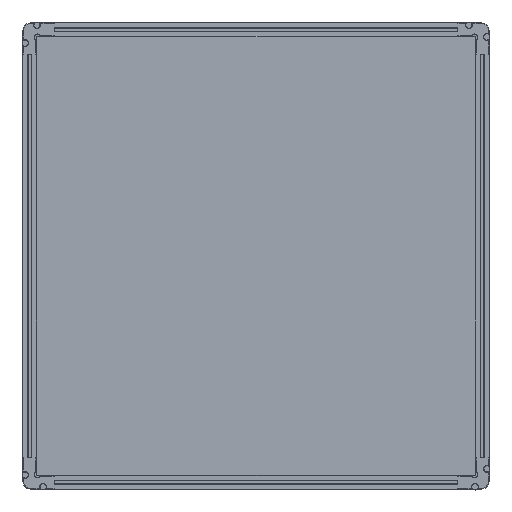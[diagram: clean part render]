
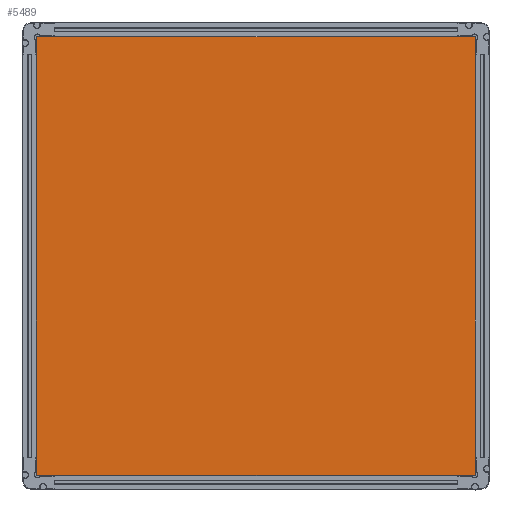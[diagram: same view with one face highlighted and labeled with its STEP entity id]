
A CAD part, top view. The second image highlights one B-rep face of the part: STEP entity #5489.
In plain terms, the highlighted planar face has unit normal (0, 0, 1).
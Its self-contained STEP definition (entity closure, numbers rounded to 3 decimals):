
#81=LINE('',#7786,#693);
#82=LINE('',#7788,#694);
#83=LINE('',#7790,#695);
#84=LINE('',#7791,#696);
#693=VECTOR('',#6312,564.);
#694=VECTOR('',#6313,564.);
#695=VECTOR('',#6314,564.);
#696=VECTOR('',#6315,564.);
#1403=FACE_OUTER_BOUND('',#1728,.T.);
#1728=EDGE_LOOP('',(#3465,#3466,#3467,#3468));
#2190=VERTEX_POINT('',#7784);
#2191=VERTEX_POINT('',#7785);
#2192=VERTEX_POINT('',#7787);
#2193=VERTEX_POINT('',#7789);
#2683=EDGE_CURVE('',#2190,#2191,#81,.T.);
#2684=EDGE_CURVE('',#2192,#2190,#82,.T.);
#2685=EDGE_CURVE('',#2193,#2192,#83,.T.);
#2686=EDGE_CURVE('',#2191,#2193,#84,.T.);
#3465=ORIENTED_EDGE('',*,*,#2683,.F.);
#3466=ORIENTED_EDGE('',*,*,#2684,.F.);
#3467=ORIENTED_EDGE('',*,*,#2685,.F.);
#3468=ORIENTED_EDGE('',*,*,#2686,.F.);
#4940=PLANE('',#5816);
#5489=ADVANCED_FACE('',(#1403),#4940,.T.);
#5816=AXIS2_PLACEMENT_3D('',#7783,#6310,#6311);
#6310=DIRECTION('center_axis',(0.,0.,
1.));
#6311=DIRECTION('ref_axis',(1.,0.,0.));
#6312=DIRECTION('',(-1.,0.,0.));
#6313=DIRECTION('',(0.,-1.,0.));
#6314=DIRECTION('',(1.,0.,0.));
#6315=DIRECTION('',(0.,1.,0.));
#7783=CARTESIAN_POINT('Origin',(0.,0.,
35.));
#7784=CARTESIAN_POINT('',(282.,-282.,35.));
#7785=CARTESIAN_POINT('',(-282.,-282.,35.));
#7786=CARTESIAN_POINT('',(141.5,-282.,35.));
#7787=CARTESIAN_POINT('',(282.,282.,35.));
#7788=CARTESIAN_POINT('',(282.,141.5,35.));
#7789=CARTESIAN_POINT('',(-282.,282.,35.));
#7790=CARTESIAN_POINT('',(-141.5,282.,35.));
#7791=CARTESIAN_POINT('',(-282.,-141.5,35.));
